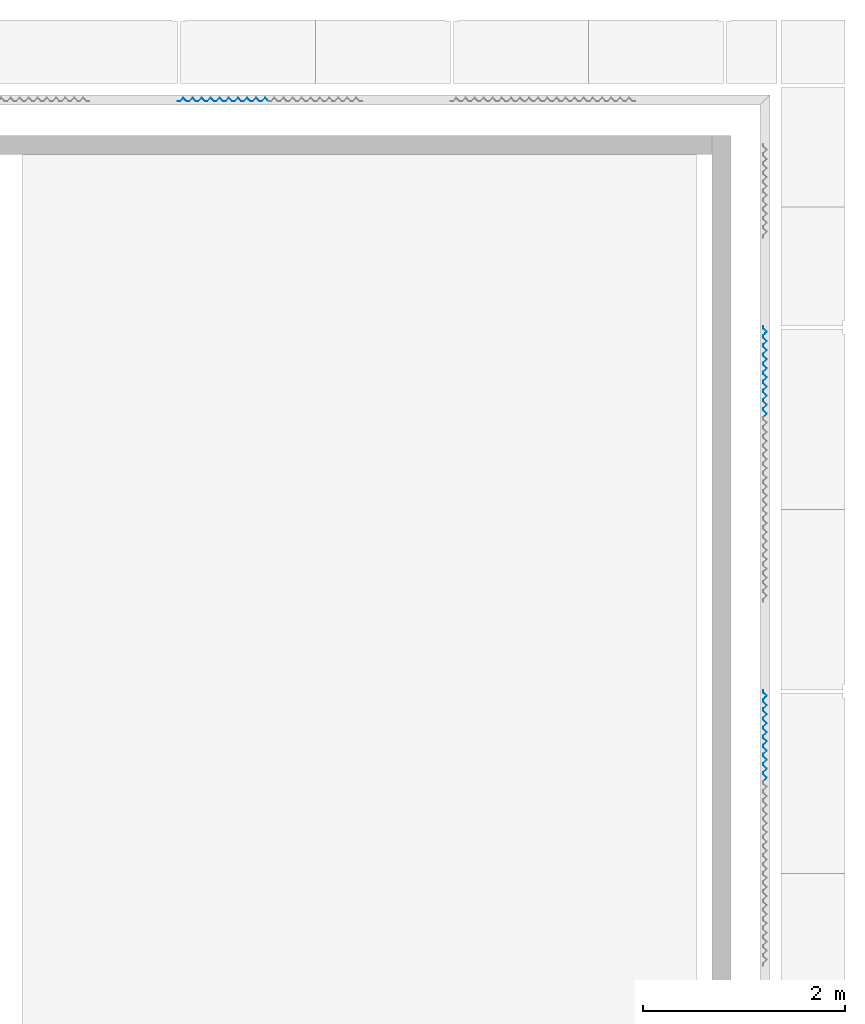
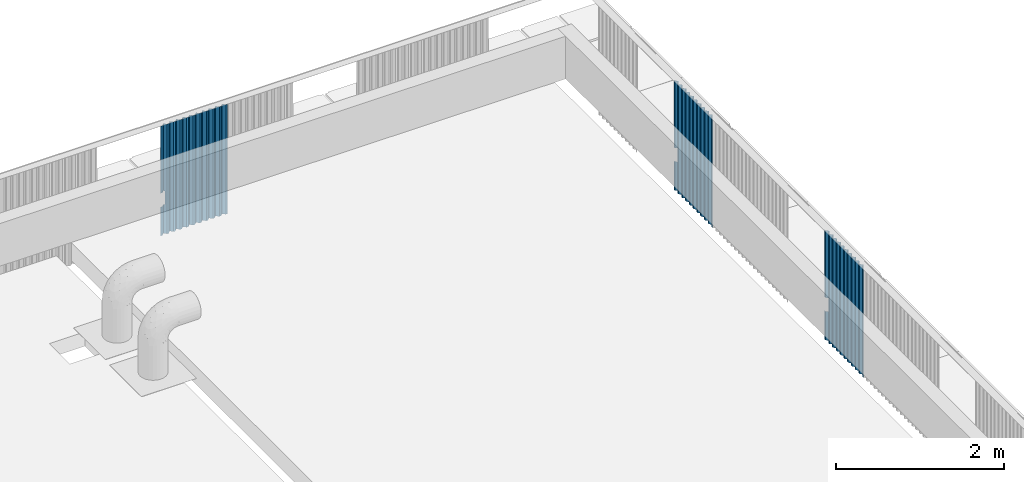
# One storey, part 33 of 37: 3 walls.
"""IFC4X3_ADD2 building model written with IfcOpenShell, lengths in millimetres."""

import ifcopenshell
import ifcopenshell.guid

model = None  # the IFC model being written
_history = None  # IfcOwnerHistory: only IFC2X3 demands one
_inside = {}  # id of a spatial element -> (the spatial element, [elements in it])
_under = {}  # id of a project, library or spatial element -> (it, [spatial elements below it])
_declared = {}  # id of a project -> (the project, [libraries it declares])
_typed = {}  # id of a type object -> (the type object, [elements of that type])
_made_of = {}  # id of a material, layer set ... -> (it, [elements and type objects made of it])


def new_model(schema):
    """Start an empty IFC model of exactly this schema.

    Asked for "IFC4X3", IfcOpenShell would pick the latest addendum, in which some entities
    have other attributes; the version numbers below select the first issue.
    IFC2X3 requires an IfcOwnerHistory on every rooted entity: one is made here for all.
    """
    global model, _history
    if schema == "IFC4X3":
        model = ifcopenshell.file(schema_version=(4, 3, 0, 0))
    else:
        model = ifcopenshell.file(schema=schema)
    _inside.clear()
    _under.clear()
    _declared.clear()
    _typed.clear()
    _made_of.clear()
    _history = None
    if model.schema == "IFC2X3":
        org = make("IfcOrganization", Name="unknown")
        user = make(
            "IfcPersonAndOrganization",
            ThePerson=make("IfcPerson", FamilyName="unknown"),
            TheOrganization=org,
        )
        app = make(
            "IfcApplication",
            ApplicationDeveloper=org,
            Version="unknown",
            ApplicationFullName="unknown",
            ApplicationIdentifier="unknown",
        )
        _history = make(
            "IfcOwnerHistory",
            OwningUser=user,
            OwningApplication=app,
            ChangeAction="ADDED",
            CreationDate=0,
        )
    return model


def make(cls, **values):
    """One entity of the class cls with the attributes given. An attribute that is None is left unset."""
    return model.create_entity(
        cls, **{name: value for name, value in values.items() if value is not None}
    )


def rooted(cls, **values):
    """An entity with a GlobalId (a new one), such as an element, a storey or a relation."""
    return make(cls, GlobalId=ifcopenshell.guid.new(), OwnerHistory=_history, **values)


def si_unit(unit_type, name, prefix=None):
    """IfcSIUnit, for example si_unit("LENGTHUNIT", "METRE", prefix="MILLI")."""
    return make("IfcSIUnit", UnitType=unit_type, Prefix=prefix, Name=name)


def assignment(units):
    """IfcUnitAssignment: the units of a project."""
    return None if units is None else make("IfcUnitAssignment", Units=units)


def point(xyz):
    """IfcCartesianPoint."""
    return None if xyz is None else make("IfcCartesianPoint", Coordinates=xyz)


def direction(xyz):
    """IfcDirection."""
    return None if xyz is None else make("IfcDirection", DirectionRatios=xyz)


def frame(location, z_axis=None, x_axis=None):
    """IfcAxis2Placement3D, a coordinate frame: its origin and axes. An axis left out is left unset."""
    return make(
        "IfcAxis2Placement3D",
        Location=point(location),
        Axis=direction(z_axis),
        RefDirection=direction(x_axis),
    )


def origin_with_axes():
    """The frame at (0, 0, 0) with the z axis (0, 0, 1) and the x axis (1, 0, 0) written out."""
    return frame((0.0, 0.0, 0.0), z_axis=(0.0, 0.0, 1.0), x_axis=(1.0, 0.0, 0.0))


def place(relative_to, where):
    """IfcLocalPlacement: puts the frame where relative to a parent placement (None: the world)."""
    return make(
        "IfcLocalPlacement", PlacementRelTo=relative_to, RelativePlacement=where
    )


def context(
    kind, dimensions, precision=None, world=None, true_north=None, identifier=None
):
    """IfcGeometricRepresentationContext, for example the 3D "Model" context."""
    return make(
        "IfcGeometricRepresentationContext",
        ContextIdentifier=identifier,
        ContextType=kind,
        CoordinateSpaceDimension=dimensions,
        Precision=precision,
        WorldCoordinateSystem=world,
        TrueNorth=true_north,
    )


def subcontext(parent, identifier, kind, view, scale=None):
    """IfcGeometricRepresentationSubContext, for example "Body" below "Model"."""
    return make(
        "IfcGeometricRepresentationSubContext",
        ContextIdentifier=identifier,
        ContextType=kind,
        ParentContext=parent,
        TargetScale=scale,
        TargetView=view,
    )


def project(units=None, contexts=None):
    """IfcProject with its units and contexts."""
    return rooted(
        "IfcProject",
        Name="project",
        RepresentationContexts=contexts,
        UnitsInContext=assignment(units),
    )


def spatial(cls, under=None, at=None, **own):
    """A site, building, storey or space (cls), placed at a placement, below another one or the project."""
    s = rooted(cls, ObjectPlacement=at, **own)
    if under is not None:
        _under.setdefault(under.id(), (under, []))[1].append(s)
    return s


def point_list(points):
    """IfcCartesianPointList2D or 3D."""
    cls = (
        "IfcCartesianPointList2D" if len(points[0]) == 2 else "IfcCartesianPointList3D"
    )
    return make(cls, CoordList=points)


def polygons(points, faces, closed=None, point_numbers=None):
    """IfcPolygonalFaceSet: a face is its outer loop, then its inner loops; points numbered from 1."""
    made = []
    for loops in faces:
        if len(loops) == 1:
            made.append(make("IfcIndexedPolygonalFace", CoordIndex=loops[0]))
        else:
            made.append(
                make(
                    "IfcIndexedPolygonalFaceWithVoids",
                    CoordIndex=loops[0],
                    InnerCoordIndices=loops[1:],
                )
            )
    return make(
        "IfcPolygonalFaceSet",
        Coordinates=point_list(points),
        Closed=closed,
        Faces=made,
        PnIndex=point_numbers,
    )


def shape(context_of_items, identifier, shape_type, items):
    """IfcShapeRepresentation: the items that make up one representation, for example the "Body"."""
    return make(
        "IfcShapeRepresentation",
        ContextOfItems=context_of_items,
        RepresentationIdentifier=identifier,
        RepresentationType=shape_type,
        Items=items,
    )


def made_of(thing, what):
    """Note that an element or type object is made of a material, layer set ...; save() writes the relation."""
    if what is not None:
        _made_of.setdefault(what.id(), (what, []))[1].append(thing)
    return thing


def element(
    cls,
    number,
    at=None,
    inside=None,
    cuts=None,
    type_object=None,
    material=None,
    context=None,
    identifier="Body",
    shape_type=None,
    held_by="IfcProductDefinitionShape",
    body=None,
    shapes=None,
    **own,
):
    """One element of the class cls, such as IfcWall. Its Tag is "e" and its number.

    at: its placement. inside: the storey or other place that contains it. cuts: it is an
    opening in that element (IfcRelVoidsElement). A single representation is given by context,
    identifier, shape_type and body (its items); several are given by shapes. held_by: the class
    of the entity that holds the representations. save() writes the other relations.
    """
    e = rooted(cls, Tag="e%d" % number, ObjectPlacement=at, **own)
    if body is not None:
        shapes = [shape(context, identifier, shape_type, body)]
    if shapes is not None:
        e.Representation = make(held_by, Representations=shapes)
    if inside is not None:
        _inside.setdefault(inside.id(), (inside, []))[1].append(e)
    if cuts is not None:
        rooted(
            "IfcRelVoidsElement", RelatingBuildingElement=cuts, RelatedOpeningElement=e
        )
    if type_object is not None:
        _typed.setdefault(type_object.id(), (type_object, []))[1].append(e)
    return made_of(e, material)


def aggregate(whole, parts):
    """IfcRelAggregates: a whole, such as a stair, and the parts it consists of."""
    return rooted("IfcRelAggregates", RelatingObject=whole, RelatedObjects=parts)


def save(model, path):
    """Write the relations noted so far, then the file.

    IfcRelAggregates (storeys below a building ...), IfcRelContainedInSpatialStructure (elements
    in a storey), IfcRelDefinesByType, IfcRelAssociatesMaterial and IfcRelDeclares: one each for
    every whole, place, type object, material and project.
    """
    for whole, parts in _under.values():
        aggregate(whole, parts)
    for where, things in _inside.values():
        rooted(
            "IfcRelContainedInSpatialStructure",
            RelatedElements=things,
            RelatingStructure=where,
        )
    for kind, things in _typed.values():
        rooted("IfcRelDefinesByType", RelatedObjects=things, RelatingType=kind)
    for what, things in _made_of.values():
        rooted("IfcRelAssociatesMaterial", RelatedObjects=things, RelatingMaterial=what)
    for by, libraries in _declared.values():
        rooted("IfcRelDeclares", RelatingContext=by, RelatedDefinitions=libraries)
    model.write(path)


model = new_model("IFC4X3_ADD2")

# Units and contexts
model_context = context("Model", 3, precision=1e-05, world=origin_with_axes(), true_north=direction((0.0, 1.0)))
body_context = subcontext(model_context, "Body", "Model", "MODEL_VIEW")
ifc_project = project(units=[si_unit("LENGTHUNIT", "METRE", prefix="MILLI"), si_unit("AREAUNIT", "SQUARE_METRE"), si_unit("VOLUMEUNIT", "CUBIC_METRE"), si_unit("PLANEANGLEUNIT", "RADIAN"), si_unit("TIMEUNIT", "SECOND"), si_unit("MASSUNIT", "GRAM")], contexts=[model_context])

# Site, building, storey
site_placement = place(None, origin_with_axes())
site = spatial("IfcSite", under=ifc_project, at=site_placement, Name="Site", CompositionType="ELEMENT")
building_placement = place(site_placement, origin_with_axes())
building = spatial("IfcBuilding", under=site, at=building_placement, Name="IFC Building Story")
storey_placement = place(building_placement, frame((0.0, 0.0, 14400.0), z_axis=(0.0, 0.0, 1.0), x_axis=(1.0, 0.0, 0.0)))
storey = spatial("IfcBuildingStorey", under=building, at=storey_placement, Name="040", Elevation=14400.0)

# Walls
wall_1_placement = place(storey_placement, frame((0.0, 0.0, -14400.0), z_axis=(0.0, 0.0, 1.0), x_axis=(1.0, 0.0, 0.0)))
element("IfcWall", 1, at=wall_1_placement, inside=storey, Name="BB_07.10_Gevelbekleding_PuntProfiel, 900 mm, console rechts_GMO:900 x 1600 mm", ObjectType="BB_07.10_Gevelbekleding_PuntProfiel, 900 mm, console rechts_GMO:900 x 1600 mm", PredefinedType="NOTDEFINED", context=body_context, shape_type="Tessellation", body=[
    polygons([(435.0000000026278, 39820.00000000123, 14060.0), (433.5857864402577, 39820.00000000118, 14060.0), (448.5857864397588, 39835.0000000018, 14060.0), (415.0000000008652, 39868.58578643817, 14060.0), (415.0000000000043, 39891.41421356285, 14060.0), (416.000000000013, 39891.0000000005, 14060.0), (416.0000000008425, 39869.0000000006, 14060.0), (450.0000000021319, 39835.00000000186, 14060.0), (435.0000000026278, 39820.00000000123, 13860.0), (433.5857864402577, 39820.00000000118, 13860.0), (450.0000000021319, 39835.00000000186, 13860.0), (416.0000000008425, 39869.0000000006, 13860.0), (416.0000000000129, 39891.0000000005, 13860.0), (415.0000000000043, 39891.41421356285, 13860.0), (415.0000000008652, 39868.58578643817, 13860.0), (448.5857864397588, 39835.0000000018, 13860.0), (416.0000000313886, 39059.00000000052, 15040.0), (416.000000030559, 39081.00000000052, 15040.0), (450.000000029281, 39115.0000000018, 15040.0), (416.0000000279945, 39149.00000000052, 15040.0), (416.0000000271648, 39171.00000000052, 15040.0), (450.0000000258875, 39205.0000000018, 15040.0), (416.0000000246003, 39239.00000000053, 15040.0), (416.0000000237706, 39261.00000000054, 15040.0), (450.0000000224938, 39295.00000000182, 15040.0), (416.0000000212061, 39329.00000000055, 15040.0), (416.0000000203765, 39351.00000000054, 15040.0), (450.0000000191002, 39385.00000000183, 15040.0), (416.0000000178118, 39419.00000000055, 15040.0), (416.0000000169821, 39441.00000000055, 15040.0), (450.0000000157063, 39475.00000000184, 15040.0), (416.0000000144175, 39509.00000000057, 15040.0), (416.0000000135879, 39531.00000000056, 15040.0), (450.0000000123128, 39565.00000000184, 15040.0), (416.0000000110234, 39599.00000000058, 15040.0), (416.0000000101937, 39621.00000000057, 15040.0), (450.0000000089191, 39655.00000000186, 15040.0), (416.0000000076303, 39689.0000000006, 15040.0), (416.0000000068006, 39711.00000000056, 15040.0), (450.0000000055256, 39745.00000000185, 15040.0), (416.0000000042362, 39779.00000000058, 15040.0), (416.0000000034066, 39801.00000000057, 15040.0), (450.000000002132, 39835.00000000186, 15040.0), (416.0000000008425, 39869.00000000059, 15040.0), (416.000000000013, 39891.0000000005, 15040.0), (415.0000000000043, 39891.41421356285, 15040.0), (415.0000000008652, 39868.58578643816, 15040.0), (448.5857864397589, 39835.0000000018, 15040.0), (415.0000000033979, 39801.41421356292, 15040.0), (415.0000000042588, 39778.58578643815, 15040.0), (448.5857864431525, 39745.00000000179, 15040.0), (415.0000000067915, 39711.4142135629, 15040.0), (415.0000000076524, 39688.58578643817, 15040.0), (448.5857864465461, 39655.0000000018, 15040.0), (415.0000000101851, 39621.41421356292, 15040.0), (415.000000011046, 39598.58578643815, 15040.0), (448.5857864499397, 39565.00000000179, 15040.0), (415.0000000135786, 39531.4142135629, 15040.0), (415.0000000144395, 39508.58578643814, 15040.0), (448.5857864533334, 39475.00000000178, 15040.0), (415.0000000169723, 39441.41421356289, 15040.0), (415.0000000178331, 39418.58578643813, 15040.0), (448.5857864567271, 39385.00000000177, 15040.0), (415.000000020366, 39351.41421356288, 15040.0), (415.0000000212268, 39328.58578643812, 15040.0), (448.5857864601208, 39295.00000000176, 15040.0), (415.0000000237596, 39261.41421356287, 15040.0), (415.0000000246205, 39238.58578643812, 15040.0), (448.5857864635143, 39205.00000000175, 15040.0), (415.0000000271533, 39171.41421356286, 15040.0), (415.000000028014, 39148.5857864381, 15040.0), (448.585786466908, 39115.00000000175, 15040.0), (415.0000000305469, 39081.41421356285, 15040.0), (415.0000000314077, 39058.5857864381, 15040.0), (448.5857864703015, 39025.00000000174, 15040.0), (415.0000000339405, 38991.41421356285, 15040.0), (415.0000000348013, 38968.5857864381, 15040.0), (416.0000000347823, 38969.00000000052, 15040.0), (416.0000000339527, 38991.00000000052, 15040.0), (450.0000000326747, 39025.0000000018, 15040.0), (416.0000000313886, 39059.00000000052, 13440.0), (450.0000000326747, 39025.0000000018, 13440.0), (416.0000000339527, 38991.00000000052, 13440.0), (416.0000000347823, 38969.00000000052, 13440.0), (415.0000000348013, 38968.5857864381, 13440.0), (415.0000000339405, 38991.41421356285, 13440.0), (448.5857864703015, 39025.00000000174, 13440.0), (415.0000000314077, 39058.5857864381, 13440.0), (415.0000000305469, 39081.41421356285, 13440.0), (448.585786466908, 39115.00000000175, 13440.0), (415.000000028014, 39148.5857864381, 13440.0), (415.0000000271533, 39171.41421356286, 13440.0), (448.5857864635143, 39205.00000000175, 13440.0), (415.0000000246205, 39238.58578643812, 13440.0), (415.0000000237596, 39261.41421356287, 13440.0), (448.5857864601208, 39295.00000000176, 13440.0), (415.0000000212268, 39328.58578643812, 13440.0), (415.000000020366, 39351.41421356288, 13440.0), (448.5857864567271, 39385.00000000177, 13440.0), (415.0000000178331, 39418.58578643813, 13440.0), (415.0000000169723, 39441.41421356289, 13440.0), (448.5857864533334, 39475.00000000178, 13440.0), (415.0000000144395, 39508.58578643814, 13440.0), (415.0000000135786, 39531.4142135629, 13440.0), (448.5857864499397, 39565.00000000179, 13440.0), (415.000000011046, 39598.58578643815, 13440.0), (415.0000000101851, 39621.41421356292, 13440.0), (448.5857864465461, 39655.0000000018, 13440.0), (415.0000000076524, 39688.58578643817, 13440.0), (415.0000000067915, 39711.4142135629, 13440.0), (448.5857864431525, 39745.00000000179, 13440.0), (415.0000000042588, 39778.58578643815, 13440.0), (415.0000000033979, 39801.41421356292, 13440.0), (448.5857864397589, 39835.0000000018, 13440.0), (415.0000000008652, 39868.58578643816, 13440.0), (415.0000000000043, 39891.41421356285, 13440.0), (416.000000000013, 39891.0000000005, 13440.0), (416.0000000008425, 39869.00000000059, 13440.0), (450.000000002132, 39835.00000000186, 13440.0), (416.0000000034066, 39801.00000000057, 13440.0), (416.0000000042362, 39779.00000000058, 13440.0), (450.0000000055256, 39745.00000000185, 13440.0), (416.0000000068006, 39711.00000000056, 13440.0), (416.0000000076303, 39689.0000000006, 13440.0), (450.0000000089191, 39655.00000000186, 13440.0), (416.0000000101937, 39621.00000000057, 13440.0), (416.0000000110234, 39599.00000000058, 13440.0), (450.0000000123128, 39565.00000000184, 13440.0), (416.0000000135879, 39531.00000000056, 13440.0), (416.0000000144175, 39509.00000000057, 13440.0), (450.0000000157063, 39475.00000000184, 13440.0), (416.0000000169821, 39441.00000000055, 13440.0), (416.0000000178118, 39419.00000000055, 13440.0), (450.0000000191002, 39385.00000000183, 13440.0), (416.0000000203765, 39351.00000000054, 13440.0), (416.0000000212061, 39329.00000000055, 13440.0), (450.0000000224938, 39295.00000000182, 13440.0), (416.0000000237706, 39261.00000000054, 13440.0), (416.0000000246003, 39239.00000000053, 13440.0), (450.0000000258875, 39205.0000000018, 13440.0), (416.0000000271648, 39171.00000000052, 13440.0), (416.0000000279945, 39149.00000000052, 13440.0), (450.000000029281, 39115.0000000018, 13440.0), (416.000000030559, 39081.00000000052, 13440.0)], [[[7, 8, 3]], [[7, 3, 4]], [[4, 5, 6]], [[4, 6, 7]], [[8, 1, 2]], [[8, 2, 3]], [[2, 1, 9, 10]], [[12, 13, 14]], [[12, 14, 15]], [[16, 10, 9]], [[16, 9, 11]], [[11, 12, 15]], [[11, 15, 16]], [[44, 45, 46]], [[44, 46, 47]], [[48, 49, 42]], [[48, 42, 43]], [[43, 44, 47]], [[43, 47, 48]], [[49, 50, 41]], [[49, 41, 42]], [[51, 52, 39]], [[51, 39, 40]], [[40, 41, 50]], [[40, 50, 51]], [[52, 53, 38]], [[52, 38, 39]], [[54, 55, 36]], [[54, 36, 37]], [[37, 38, 53]], [[37, 53, 54]], [[55, 56, 35]], [[55, 35, 36]], [[57, 58, 33]], [[57, 33, 34]], [[34, 35, 56]], [[34, 56, 57]], [[58, 59, 32]], [[58, 32, 33]], [[60, 61, 30]], [[60, 30, 31]], [[31, 32, 59]], [[31, 59, 60]], [[61, 62, 29]], [[61, 29, 30]], [[63, 64, 27]], [[63, 27, 28]], [[28, 29, 62]], [[28, 62, 63]], [[64, 65, 26]], [[64, 26, 27]], [[66, 67, 24]], [[66, 24, 25]], [[25, 26, 65]], [[25, 65, 66]], [[67, 68, 23]], [[67, 23, 24]], [[69, 70, 21]], [[69, 21, 22]], [[22, 23, 68]], [[22, 68, 69]], [[70, 71, 20]], [[70, 20, 21]], [[72, 73, 18]], [[72, 18, 19]], [[19, 20, 71]], [[19, 71, 72]], [[73, 74, 17]], [[73, 17, 18]], [[79, 80, 75]], [[79, 75, 76]], [[76, 77, 78]], [[76, 78, 79]], [[80, 17, 74]], [[80, 74, 75]], [[83, 84, 85]], [[83, 85, 86]], [[87, 88, 81]], [[87, 81, 82]], [[82, 83, 86]], [[82, 86, 87]], [[118, 119, 114]], [[118, 114, 115]], [[115, 116, 117]], [[115, 117, 118]], [[121, 122, 111]], [[121, 111, 112]], [[112, 113, 120]], [[112, 120, 121]], [[113, 114, 119]], [[113, 119, 120]], [[124, 125, 108]], [[124, 108, 109]], [[109, 110, 123]], [[109, 123, 124]], [[110, 111, 122]], [[110, 122, 123]], [[127, 128, 105]], [[127, 105, 106]], [[106, 107, 126]], [[106, 126, 127]], [[107, 108, 125]], [[107, 125, 126]], [[130, 131, 102]], [[130, 102, 103]], [[103, 104, 129]], [[103, 129, 130]], [[104, 105, 128]], [[104, 128, 129]], [[133, 134, 99]], [[133, 99, 100]], [[100, 101, 132]], [[100, 132, 133]], [[101, 102, 131]], [[101, 131, 132]], [[136, 137, 96]], [[136, 96, 97]], [[97, 98, 135]], [[97, 135, 136]], [[98, 99, 134]], [[98, 134, 135]], [[139, 140, 93]], [[139, 93, 94]], [[94, 95, 138]], [[94, 138, 139]], [[95, 96, 137]], [[95, 137, 138]], [[142, 143, 90]], [[142, 90, 91]], [[91, 92, 141]], [[91, 141, 142]], [[92, 93, 140]], [[92, 140, 141]], [[144, 81, 88]], [[144, 88, 89]], [[89, 90, 143]], [[89, 143, 144]], [[18, 17, 81, 144]], [[19, 18, 144, 143]], [[20, 19, 143, 142]], [[21, 20, 142, 141]], [[22, 21, 141, 140]], [[23, 22, 140, 139]], [[24, 23, 139, 138]], [[25, 24, 138, 137]], [[26, 25, 137, 136]], [[27, 26, 136, 135]], [[28, 27, 135, 134]], [[29, 28, 134, 133]], [[30, 29, 133, 132]], [[31, 30, 132, 131]], [[32, 31, 131, 130]], [[33, 32, 130, 129]], [[34, 33, 129, 128]], [[35, 34, 128, 127]], [[36, 35, 127, 126]], [[37, 36, 126, 125]], [[38, 37, 125, 124]], [[54, 53, 109, 108]], [[55, 54, 108, 107]], [[56, 55, 107, 106]], [[57, 56, 106, 105]], [[58, 57, 105, 104]], [[59, 58, 104, 103]], [[60, 59, 103, 102]], [[61, 60, 102, 101]], [[62, 61, 101, 100]], [[63, 62, 100, 99]], [[64, 63, 99, 98]], [[65, 64, 98, 97]], [[66, 65, 97, 96]], [[67, 66, 96, 95]], [[68, 67, 95, 94]], [[69, 68, 94, 93]], [[70, 69, 93, 92]], [[71, 70, 92, 91]], [[72, 71, 91, 90]], [[73, 72, 90, 89]], [[74, 73, 89, 88]], [[80, 79, 83, 82]], [[17, 80, 82, 81]], [[39, 38, 124, 123]], [[40, 39, 123, 122]], [[41, 40, 122, 121]], [[42, 41, 121, 120]], [[1, 8, 43]], [[1, 43, 42]], [[42, 9, 1]], [[42, 120, 9]], [[120, 119, 11]], [[120, 11, 9]], [[44, 43, 8, 7]], [[45, 44, 7, 6]], [[47, 46, 5, 4]], [[48, 47, 4, 3]], [[10, 16, 114]], [[10, 114, 113]], [[113, 2, 10]], [[2, 113, 49]], [[49, 48, 2]], [[48, 3, 2]], [[50, 49, 113, 112]], [[51, 50, 112, 111]], [[52, 51, 111, 110]], [[53, 52, 110, 109]], [[75, 74, 88, 87]], [[76, 75, 87, 86]], [[46, 45, 6, 5]], [[77, 76, 86, 85]], [[78, 77, 85, 84]], [[79, 78, 84, 83]], [[117, 116, 14, 13]], [[115, 114, 16, 15]], [[116, 115, 15, 14]], [[118, 117, 13, 12]], [[119, 118, 12, 11]]]),
])
wall_2_placement = place(storey_placement, frame((0.0, 0.0, -14400.0), z_axis=(0.0, 0.0, 1.0), x_axis=(1.0, 0.0, 0.0)))
element("IfcWall", 2, at=wall_2_placement, inside=storey, Name="BB_07.10_Gevelbekleding_PuntProfiel, 900 mm, console rechts_GMO:900 x 1600 mm", ObjectType="BB_07.10_Gevelbekleding_PuntProfiel, 900 mm, console rechts_GMO:900 x 1600 mm", PredefinedType="NOTDEFINED", context=body_context, shape_type="Tessellation", body=[
    polygons([(435.0000000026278, 43420.00000000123, 14060.0), (433.5857864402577, 43420.00000000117, 14060.0), (448.5857864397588, 43435.0000000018, 14060.0), (415.0000000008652, 43468.58578643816, 14060.0), (415.0000000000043, 43491.41421356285, 14060.0), (416.000000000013, 43491.0000000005, 14060.0), (416.0000000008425, 43469.00000000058, 14060.0), (450.0000000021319, 43435.00000000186, 14060.0), (435.0000000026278, 43420.00000000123, 13860.0), (433.5857864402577, 43420.00000000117, 13860.0), (450.0000000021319, 43435.00000000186, 13860.0), (416.0000000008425, 43469.00000000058, 13860.0), (416.0000000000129, 43491.0000000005, 13860.0), (415.0000000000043, 43491.41421356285, 13860.0), (415.0000000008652, 43468.58578643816, 13860.0), (448.5857864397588, 43435.0000000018, 13860.0), (416.0000000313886, 42659.00000000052, 15040.0), (416.000000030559, 42681.00000000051, 15040.0), (450.000000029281, 42715.0000000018, 15040.0), (416.0000000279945, 42749.00000000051, 15040.0), (416.0000000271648, 42771.00000000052, 15040.0), (450.0000000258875, 42805.0000000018, 15040.0), (416.0000000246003, 42839.00000000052, 15040.0), (416.0000000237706, 42861.00000000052, 15040.0), (450.0000000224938, 42895.00000000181, 15040.0), (416.0000000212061, 42929.00000000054, 15040.0), (416.0000000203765, 42951.00000000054, 15040.0), (450.0000000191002, 42985.00000000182, 15040.0), (416.0000000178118, 43019.00000000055, 15040.0), (416.0000000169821, 43041.00000000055, 15040.0), (450.0000000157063, 43075.00000000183, 15040.0), (416.0000000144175, 43109.00000000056, 15040.0), (416.0000000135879, 43131.00000000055, 15040.0), (450.0000000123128, 43165.00000000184, 15040.0), (416.0000000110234, 43199.00000000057, 15040.0), (416.0000000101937, 43221.00000000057, 15040.0), (450.0000000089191, 43255.00000000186, 15040.0), (416.0000000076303, 43289.00000000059, 15040.0), (416.0000000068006, 43311.00000000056, 15040.0), (450.0000000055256, 43345.00000000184, 15040.0), (416.0000000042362, 43379.00000000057, 15040.0), (416.0000000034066, 43401.00000000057, 15040.0), (450.000000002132, 43435.00000000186, 15040.0), (416.0000000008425, 43469.00000000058, 15040.0), (416.000000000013, 43491.0000000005, 15040.0), (415.0000000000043, 43491.41421356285, 15040.0), (415.0000000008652, 43468.58578643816, 15040.0), (448.5857864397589, 43435.0000000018, 15040.0), (415.0000000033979, 43401.41421356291, 15040.0), (415.0000000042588, 43378.58578643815, 15040.0), (448.5857864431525, 43345.00000000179, 15040.0), (415.0000000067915, 43311.41421356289, 15040.0), (415.0000000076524, 43288.58578643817, 15040.0), (448.5857864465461, 43255.0000000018, 15040.0), (415.0000000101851, 43221.41421356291, 15040.0), (415.000000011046, 43198.58578643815, 15040.0), (448.5857864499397, 43165.00000000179, 15040.0), (415.0000000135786, 43131.41421356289, 15040.0), (415.0000000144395, 43108.58578643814, 15040.0), (448.5857864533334, 43075.00000000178, 15040.0), (415.0000000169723, 43041.41421356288, 15040.0), (415.0000000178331, 43018.58578643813, 15040.0), (448.5857864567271, 42985.00000000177, 15040.0), (415.000000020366, 42951.41421356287, 15040.0), (415.0000000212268, 42928.58578643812, 15040.0), (448.5857864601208, 42895.00000000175, 15040.0), (415.0000000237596, 42861.41421356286, 15040.0), (415.0000000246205, 42838.58578643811, 15040.0), (448.5857864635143, 42805.00000000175, 15040.0), (415.0000000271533, 42771.41421356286, 15040.0), (415.000000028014, 42748.5857864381, 15040.0), (448.585786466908, 42715.00000000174, 15040.0), (415.0000000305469, 42681.41421356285, 15040.0), (415.0000000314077, 42658.5857864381, 15040.0), (448.5857864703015, 42625.00000000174, 15040.0), (415.0000000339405, 42591.41421356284, 15040.0), (415.0000000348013, 42568.5857864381, 15040.0), (416.0000000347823, 42569.00000000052, 15040.0), (416.0000000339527, 42591.00000000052, 15040.0), (450.0000000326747, 42625.00000000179, 15040.0), (416.0000000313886, 42659.00000000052, 13440.0), (450.0000000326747, 42625.00000000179, 13440.0), (416.0000000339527, 42591.00000000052, 13440.0), (416.0000000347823, 42569.00000000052, 13440.0), (415.0000000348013, 42568.5857864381, 13440.0), (415.0000000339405, 42591.41421356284, 13440.0), (448.5857864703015, 42625.00000000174, 13440.0), (415.0000000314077, 42658.5857864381, 13440.0), (415.0000000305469, 42681.41421356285, 13440.0), (448.585786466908, 42715.00000000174, 13440.0), (415.000000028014, 42748.5857864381, 13440.0), (415.0000000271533, 42771.41421356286, 13440.0), (448.5857864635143, 42805.00000000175, 13440.0), (415.0000000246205, 42838.58578643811, 13440.0), (415.0000000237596, 42861.41421356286, 13440.0), (448.5857864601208, 42895.00000000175, 13440.0), (415.0000000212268, 42928.58578643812, 13440.0), (415.000000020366, 42951.41421356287, 13440.0), (448.5857864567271, 42985.00000000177, 13440.0), (415.0000000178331, 43018.58578643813, 13440.0), (415.0000000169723, 43041.41421356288, 13440.0), (448.5857864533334, 43075.00000000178, 13440.0), (415.0000000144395, 43108.58578643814, 13440.0), (415.0000000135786, 43131.41421356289, 13440.0), (448.5857864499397, 43165.00000000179, 13440.0), (415.000000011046, 43198.58578643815, 13440.0), (415.0000000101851, 43221.41421356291, 13440.0), (448.5857864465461, 43255.0000000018, 13440.0), (415.0000000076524, 43288.58578643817, 13440.0), (415.0000000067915, 43311.41421356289, 13440.0), (448.5857864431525, 43345.00000000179, 13440.0), (415.0000000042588, 43378.58578643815, 13440.0), (415.0000000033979, 43401.41421356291, 13440.0), (448.5857864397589, 43435.0000000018, 13440.0), (415.0000000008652, 43468.58578643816, 13440.0), (415.0000000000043, 43491.41421356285, 13440.0), (416.000000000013, 43491.0000000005, 13440.0), (416.0000000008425, 43469.00000000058, 13440.0), (450.000000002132, 43435.00000000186, 13440.0), (416.0000000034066, 43401.00000000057, 13440.0), (416.0000000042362, 43379.00000000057, 13440.0), (450.0000000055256, 43345.00000000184, 13440.0), (416.0000000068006, 43311.00000000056, 13440.0), (416.0000000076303, 43289.00000000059, 13440.0), (450.0000000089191, 43255.00000000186, 13440.0), (416.0000000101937, 43221.00000000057, 13440.0), (416.0000000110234, 43199.00000000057, 13440.0), (450.0000000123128, 43165.00000000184, 13440.0), (416.0000000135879, 43131.00000000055, 13440.0), (416.0000000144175, 43109.00000000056, 13440.0), (450.0000000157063, 43075.00000000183, 13440.0), (416.0000000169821, 43041.00000000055, 13440.0), (416.0000000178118, 43019.00000000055, 13440.0), (450.0000000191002, 42985.00000000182, 13440.0), (416.0000000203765, 42951.00000000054, 13440.0), (416.0000000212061, 42929.00000000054, 13440.0), (450.0000000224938, 42895.00000000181, 13440.0), (416.0000000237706, 42861.00000000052, 13440.0), (416.0000000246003, 42839.00000000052, 13440.0), (450.0000000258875, 42805.0000000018, 13440.0), (416.0000000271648, 42771.00000000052, 13440.0), (416.0000000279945, 42749.00000000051, 13440.0), (450.000000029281, 42715.0000000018, 13440.0), (416.000000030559, 42681.00000000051, 13440.0)], [[[7, 8, 3]], [[7, 3, 4]], [[4, 5, 6]], [[4, 6, 7]], [[8, 1, 2]], [[8, 2, 3]], [[2, 1, 9, 10]], [[12, 13, 14]], [[12, 14, 15]], [[16, 10, 9]], [[16, 9, 11]], [[11, 12, 15]], [[11, 15, 16]], [[44, 45, 46]], [[44, 46, 47]], [[48, 49, 42]], [[48, 42, 43]], [[43, 44, 47]], [[43, 47, 48]], [[49, 50, 41]], [[49, 41, 42]], [[51, 52, 39]], [[51, 39, 40]], [[40, 41, 50]], [[40, 50, 51]], [[52, 53, 38]], [[52, 38, 39]], [[54, 55, 36]], [[54, 36, 37]], [[37, 38, 53]], [[37, 53, 54]], [[55, 56, 35]], [[55, 35, 36]], [[57, 58, 33]], [[57, 33, 34]], [[34, 35, 56]], [[34, 56, 57]], [[58, 59, 32]], [[58, 32, 33]], [[60, 61, 30]], [[60, 30, 31]], [[31, 32, 59]], [[31, 59, 60]], [[61, 62, 29]], [[61, 29, 30]], [[63, 64, 27]], [[63, 27, 28]], [[28, 29, 62]], [[28, 62, 63]], [[64, 65, 26]], [[64, 26, 27]], [[66, 67, 24]], [[66, 24, 25]], [[25, 26, 65]], [[25, 65, 66]], [[67, 68, 23]], [[67, 23, 24]], [[69, 70, 21]], [[69, 21, 22]], [[22, 23, 68]], [[22, 68, 69]], [[70, 71, 20]], [[70, 20, 21]], [[72, 73, 18]], [[72, 18, 19]], [[19, 20, 71]], [[19, 71, 72]], [[73, 74, 17]], [[73, 17, 18]], [[79, 80, 75]], [[79, 75, 76]], [[76, 77, 78]], [[76, 78, 79]], [[80, 17, 74]], [[80, 74, 75]], [[83, 84, 85]], [[83, 85, 86]], [[87, 88, 81]], [[87, 81, 82]], [[82, 83, 86]], [[82, 86, 87]], [[118, 119, 114]], [[118, 114, 115]], [[115, 116, 117]], [[115, 117, 118]], [[121, 122, 111]], [[121, 111, 112]], [[112, 113, 120]], [[112, 120, 121]], [[113, 114, 119]], [[113, 119, 120]], [[124, 125, 108]], [[124, 108, 109]], [[109, 110, 123]], [[109, 123, 124]], [[110, 111, 122]], [[110, 122, 123]], [[127, 128, 105]], [[127, 105, 106]], [[106, 107, 126]], [[106, 126, 127]], [[107, 108, 125]], [[107, 125, 126]], [[130, 131, 102]], [[130, 102, 103]], [[103, 104, 129]], [[103, 129, 130]], [[104, 105, 128]], [[104, 128, 129]], [[133, 134, 99]], [[133, 99, 100]], [[100, 101, 132]], [[100, 132, 133]], [[101, 102, 131]], [[101, 131, 132]], [[136, 137, 96]], [[136, 96, 97]], [[97, 98, 135]], [[97, 135, 136]], [[98, 99, 134]], [[98, 134, 135]], [[139, 140, 93]], [[139, 93, 94]], [[94, 95, 138]], [[94, 138, 139]], [[95, 96, 137]], [[95, 137, 138]], [[142, 143, 90]], [[142, 90, 91]], [[91, 92, 141]], [[91, 141, 142]], [[92, 93, 140]], [[92, 140, 141]], [[144, 81, 88]], [[144, 88, 89]], [[89, 90, 143]], [[89, 143, 144]], [[18, 17, 81, 144]], [[19, 18, 144, 143]], [[20, 19, 143, 142]], [[21, 20, 142, 141]], [[22, 21, 141, 140]], [[23, 22, 140, 139]], [[24, 23, 139, 138]], [[25, 24, 138, 137]], [[26, 25, 137, 136]], [[27, 26, 136, 135]], [[28, 27, 135, 134]], [[29, 28, 134, 133]], [[30, 29, 133, 132]], [[31, 30, 132, 131]], [[32, 31, 131, 130]], [[33, 32, 130, 129]], [[34, 33, 129, 128]], [[35, 34, 128, 127]], [[36, 35, 127, 126]], [[37, 36, 126, 125]], [[38, 37, 125, 124]], [[54, 53, 109, 108]], [[55, 54, 108, 107]], [[56, 55, 107, 106]], [[57, 56, 106, 105]], [[58, 57, 105, 104]], [[59, 58, 104, 103]], [[60, 59, 103, 102]], [[61, 60, 102, 101]], [[62, 61, 101, 100]], [[63, 62, 100, 99]], [[64, 63, 99, 98]], [[65, 64, 98, 97]], [[66, 65, 97, 96]], [[67, 66, 96, 95]], [[68, 67, 95, 94]], [[69, 68, 94, 93]], [[70, 69, 93, 92]], [[71, 70, 92, 91]], [[72, 71, 91, 90]], [[73, 72, 90, 89]], [[74, 73, 89, 88]], [[80, 79, 83, 82]], [[17, 80, 82, 81]], [[39, 38, 124, 123]], [[40, 39, 123, 122]], [[41, 40, 122, 121]], [[42, 41, 121, 120]], [[1, 8, 43]], [[1, 43, 42]], [[42, 9, 1]], [[42, 120, 9]], [[120, 119, 11]], [[120, 11, 9]], [[44, 43, 8, 7]], [[45, 44, 7, 6]], [[47, 46, 5, 4]], [[48, 47, 4, 3]], [[10, 16, 114]], [[10, 114, 113]], [[113, 2, 10]], [[2, 113, 49]], [[49, 48, 2]], [[48, 3, 2]], [[50, 49, 113, 112]], [[51, 50, 112, 111]], [[52, 51, 111, 110]], [[53, 52, 110, 109]], [[75, 74, 88, 87]], [[76, 75, 87, 86]], [[46, 45, 6, 5]], [[77, 76, 86, 85]], [[78, 77, 85, 84]], [[79, 78, 84, 83]], [[117, 116, 14, 13]], [[115, 114, 16, 15]], [[116, 115, 15, 14]], [[118, 117, 13, 12]], [[119, 118, 12, 11]]]),
])
wall_3_placement = place(storey_placement, frame((0.0, 0.0, -14400.0), z_axis=(0.0, 0.0, 1.0), x_axis=(1.0, 0.0, 0.0)))
element("IfcWall", 3, at=wall_3_placement, inside=storey, Name="BB_07.10_Gevelbekleding_PuntProfiel, 900 mm, console rechts_GMO:900 x 1600 mm", ObjectType="BB_07.10_Gevelbekleding_PuntProfiel, 900 mm, console rechts_GMO:900 x 1600 mm", PredefinedType="NOTDEFINED", context=body_context, shape_type="Tessellation", body=[
    polygons([(-5304.999999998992, 45734.99999999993, 14060.0), (-5304.999999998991, 45733.58578643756, 14060.0), (-5319.999999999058, 45748.58578643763, 14060.0), (-5353.585786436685, 45715.0, 14060.0), (-5376.41421356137, 45715.0, 14060.0), (-5375.99999999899, 45716.0, 14060.0), (-5353.999999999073, 45716.0, 14060.0), (-5319.999999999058, 45750.00000000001, 14060.0), (-5304.999999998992, 45734.99999999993, 13860.0), (-5304.999999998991, 45733.58578643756, 13860.0), (-5319.99999999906, 45750.0, 13860.0), (-5353.999999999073, 45715.99999999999, 13860.0), (-5375.99999999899, 45716.0, 13860.0), (-5376.414213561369, 45715.0, 13860.0), (-5353.585786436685, 45715.0, 13860.0), (-5319.999999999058, 45748.58578643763, 13860.0), (-4543.999999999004, 45716.0, 15040.0), (-4565.999999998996, 45716.0, 15040.0), (-4599.999999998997, 45750.0, 15040.0), (-4633.999999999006, 45716.0, 15040.0), (-4655.999999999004, 45716.0, 15040.0), (-4689.999999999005, 45750.0, 15040.0), (-4723.999999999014, 45716.0, 15040.0), (-4745.999999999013, 45716.0, 15040.0), (-4779.999999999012, 45750.00000000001, 15040.0), (-4813.999999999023, 45716.0, 15040.0), (-4835.999999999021, 45716.0, 15040.0), (-4869.999999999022, 45750.00000000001, 15040.0), (-4903.999999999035, 45716.0, 15040.0), (-4925.999999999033, 45716.0, 15040.0), (-4959.999999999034, 45750.00000000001, 15040.0), (-4993.999999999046, 45716.0, 15040.0), (-5015.999999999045, 45716.0, 15040.0), (-5049.999999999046, 45750.00000000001, 15040.0), (-5083.99999999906, 45716.0, 15040.0), (-5105.999999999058, 45716.0, 15040.0), (-5139.99999999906, 45750.00000000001, 15040.0), (-5173.999999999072, 45716.0, 15040.0), (-5195.999999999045, 45716.0, 15040.0), (-5229.999999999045, 45750.00000000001, 15040.0), (-5263.99999999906, 45716.0, 15040.0), (-5285.999999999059, 45716.0, 15040.0), (-5319.999999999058, 45750.00000000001, 15040.0), (-5353.999999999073, 45716.0, 15040.0), (-5375.99999999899, 45716.0, 15040.0), (-5376.41421356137, 45715.00000000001, 15040.0), (-5353.585786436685, 45715.00000000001, 15040.0), (-5319.999999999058, 45748.58578643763, 15040.0), (-5286.414213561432, 45715.00000000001, 15040.0), (-5263.585786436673, 45715.00000000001, 15040.0), (-5229.999999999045, 45748.58578643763, 15040.0), (-5196.414213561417, 45715.00000000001, 15040.0), (-5173.585786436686, 45715.00000000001, 15040.0), (-5139.99999999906, 45748.58578643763, 15040.0), (-5106.414213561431, 45715.00000000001, 15040.0), (-5083.585786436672, 45715.00000000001, 15040.0), (-5049.999999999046, 45748.58578643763, 15040.0), (-5016.414213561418, 45715.00000000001, 15040.0), (-4993.58578643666, 45715.00000000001, 15040.0), (-4959.999999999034, 45748.58578643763, 15040.0), (-4926.414213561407, 45715.00000000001, 15040.0), (-4903.58578643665, 45715.00000000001, 15040.0), (-4869.999999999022, 45748.58578643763, 15040.0), (-4836.414213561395, 45715.00000000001, 15040.0), (-4813.58578643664, 45715.00000000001, 15040.0), (-4779.999999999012, 45748.58578643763, 15040.0), (-4746.414213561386, 45715.00000000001, 15040.0), (-4723.585786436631, 45715.00000000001, 15040.0), (-4689.999999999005, 45748.58578643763, 15040.0), (-4656.414213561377, 45715.0, 15040.0), (-4633.585786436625, 45715.0, 15040.0), (-4599.999999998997, 45748.58578643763, 15040.0), (-4566.41421356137, 45715.0, 15040.0), (-4543.585786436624, 45715.0, 15040.0), (-4509.999999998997, 45748.58578643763, 15040.0), (-4476.41421356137, 45715.0, 15040.0), (-4453.585786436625, 45715.0, 15040.0), (-4453.999999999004, 45716.0, 15040.0), (-4475.999999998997, 45716.0, 15040.0), (-4509.999999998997, 45750.0, 15040.0), (-4543.999999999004, 45716.0, 13440.0), (-4509.999999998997, 45750.0, 13440.0), (-4475.999999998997, 45716.0, 13440.0), (-4453.999999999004, 45716.0, 13440.0), (-4453.585786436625, 45715.0, 13440.0), (-4476.41421356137, 45715.0, 13440.0), (-4509.999999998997, 45748.58578643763, 13440.0), (-4543.585786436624, 45715.0, 13440.0), (-4566.41421356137, 45715.0, 13440.0), (-4599.999999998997, 45748.58578643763, 13440.0), (-4633.585786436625, 45715.0, 13440.0), (-4656.414213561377, 45715.0, 13440.0), (-4689.999999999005, 45748.58578643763, 13440.0), (-4723.585786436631, 45715.00000000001, 13440.0), (-4746.414213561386, 45715.00000000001, 13440.0), (-4779.999999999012, 45748.58578643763, 13440.0), (-4813.58578643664, 45715.00000000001, 13440.0), (-4836.414213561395, 45715.00000000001, 13440.0), (-4869.999999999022, 45748.58578643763, 13440.0), (-4903.58578643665, 45715.00000000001, 13440.0), (-4926.414213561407, 45715.00000000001, 13440.0), (-4959.999999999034, 45748.58578643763, 13440.0), (-4993.58578643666, 45715.00000000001, 13440.0), (-5016.414213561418, 45715.00000000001, 13440.0), (-5049.999999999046, 45748.58578643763, 13440.0), (-5083.585786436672, 45715.00000000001, 13440.0), (-5106.414213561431, 45715.00000000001, 13440.0), (-5139.99999999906, 45748.58578643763, 13440.0), (-5173.585786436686, 45715.00000000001, 13440.0), (-5196.414213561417, 45715.00000000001, 13440.0), (-5229.999999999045, 45748.58578643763, 13440.0), (-5263.585786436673, 45715.00000000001, 13440.0), (-5286.414213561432, 45715.00000000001, 13440.0), (-5319.999999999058, 45748.58578643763, 13440.0), (-5353.585786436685, 45715.00000000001, 13440.0), (-5376.41421356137, 45715.00000000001, 13440.0), (-5375.99999999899, 45716.0, 13440.0), (-5353.999999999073, 45716.0, 13440.0), (-5319.999999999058, 45750.00000000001, 13440.0), (-5285.999999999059, 45716.0, 13440.0), (-5263.99999999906, 45716.0, 13440.0), (-5229.999999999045, 45750.00000000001, 13440.0), (-5195.999999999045, 45716.0, 13440.0), (-5173.999999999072, 45716.0, 13440.0), (-5139.99999999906, 45750.00000000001, 13440.0), (-5105.999999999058, 45716.0, 13440.0), (-5083.99999999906, 45716.0, 13440.0), (-5049.999999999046, 45750.00000000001, 13440.0), (-5015.999999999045, 45716.0, 13440.0), (-4993.999999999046, 45716.0, 13440.0), (-4959.999999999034, 45750.00000000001, 13440.0), (-4925.999999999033, 45716.0, 13440.0), (-4903.999999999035, 45716.0, 13440.0), (-4869.999999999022, 45750.00000000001, 13440.0), (-4835.999999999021, 45716.0, 13440.0), (-4813.999999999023, 45716.0, 13440.0), (-4779.999999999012, 45750.00000000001, 13440.0), (-4745.999999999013, 45716.0, 13440.0), (-4723.999999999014, 45716.0, 13440.0), (-4689.999999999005, 45750.0, 13440.0), (-4655.999999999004, 45716.0, 13440.0), (-4633.999999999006, 45716.0, 13440.0), (-4599.999999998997, 45750.0, 13440.0), (-4565.999999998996, 45716.0, 13440.0)], [[[7, 8, 3]], [[7, 3, 4]], [[4, 5, 6]], [[4, 6, 7]], [[8, 1, 2]], [[8, 2, 3]], [[2, 1, 9, 10]], [[12, 13, 14]], [[12, 14, 15]], [[16, 10, 9]], [[16, 9, 11]], [[11, 12, 15]], [[11, 15, 16]], [[44, 45, 46]], [[44, 46, 47]], [[48, 49, 42]], [[48, 42, 43]], [[43, 44, 47]], [[43, 47, 48]], [[49, 50, 41]], [[49, 41, 42]], [[51, 52, 39]], [[51, 39, 40]], [[40, 41, 50]], [[40, 50, 51]], [[52, 53, 38]], [[52, 38, 39]], [[54, 55, 36]], [[54, 36, 37]], [[37, 38, 53]], [[37, 53, 54]], [[55, 56, 35]], [[55, 35, 36]], [[57, 58, 33]], [[57, 33, 34]], [[34, 35, 56]], [[34, 56, 57]], [[58, 59, 32]], [[58, 32, 33]], [[60, 61, 30]], [[60, 30, 31]], [[31, 32, 59]], [[31, 59, 60]], [[61, 62, 29]], [[61, 29, 30]], [[63, 64, 27]], [[63, 27, 28]], [[28, 29, 62]], [[28, 62, 63]], [[64, 65, 26]], [[64, 26, 27]], [[66, 67, 24]], [[66, 24, 25]], [[25, 26, 65]], [[25, 65, 66]], [[67, 68, 23]], [[67, 23, 24]], [[69, 70, 21]], [[69, 21, 22]], [[22, 23, 68]], [[22, 68, 69]], [[70, 71, 20]], [[70, 20, 21]], [[72, 73, 18]], [[72, 18, 19]], [[19, 20, 71]], [[19, 71, 72]], [[73, 74, 17]], [[73, 17, 18]], [[79, 80, 75]], [[79, 75, 76]], [[76, 77, 78]], [[76, 78, 79]], [[80, 17, 74]], [[80, 74, 75]], [[83, 84, 85]], [[83, 85, 86]], [[87, 88, 81]], [[87, 81, 82]], [[82, 83, 86]], [[82, 86, 87]], [[118, 119, 114]], [[118, 114, 115]], [[115, 116, 117]], [[115, 117, 118]], [[121, 122, 111]], [[121, 111, 112]], [[112, 113, 120]], [[112, 120, 121]], [[113, 114, 119]], [[113, 119, 120]], [[124, 125, 108]], [[124, 108, 109]], [[109, 110, 123]], [[109, 123, 124]], [[110, 111, 122]], [[110, 122, 123]], [[127, 128, 105]], [[127, 105, 106]], [[106, 107, 126]], [[106, 126, 127]], [[107, 108, 125]], [[107, 125, 126]], [[130, 131, 102]], [[130, 102, 103]], [[103, 104, 129]], [[103, 129, 130]], [[104, 105, 128]], [[104, 128, 129]], [[133, 134, 99]], [[133, 99, 100]], [[100, 101, 132]], [[100, 132, 133]], [[101, 102, 131]], [[101, 131, 132]], [[136, 137, 96]], [[136, 96, 97]], [[97, 98, 135]], [[97, 135, 136]], [[98, 99, 134]], [[98, 134, 135]], [[139, 140, 93]], [[139, 93, 94]], [[94, 95, 138]], [[94, 138, 139]], [[95, 96, 137]], [[95, 137, 138]], [[142, 143, 90]], [[142, 90, 91]], [[91, 92, 141]], [[91, 141, 142]], [[92, 93, 140]], [[92, 140, 141]], [[144, 81, 88]], [[144, 88, 89]], [[89, 90, 143]], [[89, 143, 144]], [[18, 17, 81, 144]], [[19, 18, 144, 143]], [[20, 19, 143, 142]], [[21, 20, 142, 141]], [[22, 21, 141, 140]], [[23, 22, 140, 139]], [[24, 23, 139, 138]], [[25, 24, 138, 137]], [[26, 25, 137, 136]], [[27, 26, 136, 135]], [[28, 27, 135, 134]], [[29, 28, 134, 133]], [[30, 29, 133, 132]], [[31, 30, 132, 131]], [[32, 31, 131, 130]], [[33, 32, 130, 129]], [[34, 33, 129, 128]], [[35, 34, 128, 127]], [[36, 35, 127, 126]], [[37, 36, 126, 125]], [[38, 37, 125, 124]], [[54, 53, 109, 108]], [[55, 54, 108, 107]], [[56, 55, 107, 106]], [[57, 56, 106, 105]], [[58, 57, 105, 104]], [[59, 58, 104, 103]], [[60, 59, 103, 102]], [[61, 60, 102, 101]], [[62, 61, 101, 100]], [[63, 62, 100, 99]], [[64, 63, 99, 98]], [[65, 64, 98, 97]], [[66, 65, 97, 96]], [[67, 66, 96, 95]], [[68, 67, 95, 94]], [[69, 68, 94, 93]], [[70, 69, 93, 92]], [[71, 70, 92, 91]], [[72, 71, 91, 90]], [[73, 72, 90, 89]], [[74, 73, 89, 88]], [[80, 79, 83, 82]], [[17, 80, 82, 81]], [[39, 38, 124, 123]], [[40, 39, 123, 122]], [[41, 40, 122, 121]], [[42, 41, 121, 120]], [[1, 8, 43]], [[1, 43, 42]], [[42, 9, 1]], [[42, 120, 9]], [[120, 119, 11]], [[120, 11, 9]], [[44, 43, 8, 7]], [[45, 44, 7, 6]], [[47, 46, 5, 4]], [[48, 47, 4, 3]], [[10, 16, 114]], [[10, 114, 113]], [[113, 2, 10]], [[2, 113, 49]], [[49, 48, 2]], [[48, 3, 2]], [[50, 49, 113, 112]], [[51, 50, 112, 111]], [[52, 51, 111, 110]], [[53, 52, 110, 109]], [[75, 74, 88, 87]], [[76, 75, 87, 86]], [[46, 45, 6, 5]], [[77, 76, 86, 85]], [[78, 77, 85, 84]], [[79, 78, 84, 83]], [[117, 116, 14, 13]], [[115, 114, 16, 15]], [[116, 115, 15, 14]], [[118, 117, 13, 12]], [[119, 118, 12, 11]]]),
])

save(model, "model.ifc")
